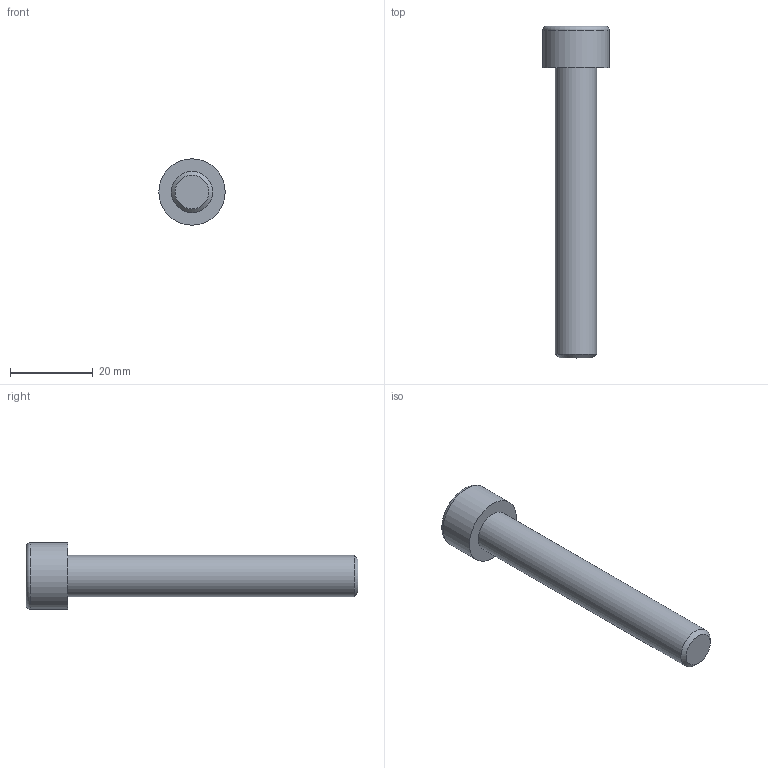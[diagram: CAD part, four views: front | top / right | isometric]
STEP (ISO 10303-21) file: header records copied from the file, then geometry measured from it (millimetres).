
FILE_DESCRIPTION(/* description */ (''),/* implementation_level */ '2;1');
FILE_NAME(/* name */ 'C:\Users\D\Documents\Inventor\各種小物\JIS\JIS B 1176 六角穴付きボルト\M10x70.stp',/* time_stamp */ '2022-05-09T18:52:06+09:00',/* author */ ('D'),/* organization */ (''),/* preprocessor_version */ 'ST-DEVELOPER v18',/* originating_system */ 'Autodesk Inventor 2020',/* authorisation */ '');
FILE_SCHEMA (('AUTOMOTIVE_DESIGN { 1 0 10303 214 3 1 1 }'));
Length unit declared in the file: millimetre
Products named in the file (1): M1.6x2.5
Bounding box: 16 x 80 x 16 mm (x, y, z)
Volume: 7150.4 mm3; surface area: 3217.5 mm2
Topology: 1 solids, 1 shells, 14 faces, 33 edges, 22 vertices
Faces by surface type: plane 9, cone 2, cylinder 2, torus 1
Full cylindrical faces by diameter (mm): 10 x1, 16 x1
Entity records: 435 total; most frequent: CARTESIAN_POINT 83, ORIENTED_EDGE 64, DIRECTION 64, EDGE_CURVE 32, AXIS2_PLACEMENT_3D 24, VERTEX_POINT 22, EDGE_LOOP 16, LINE 16
